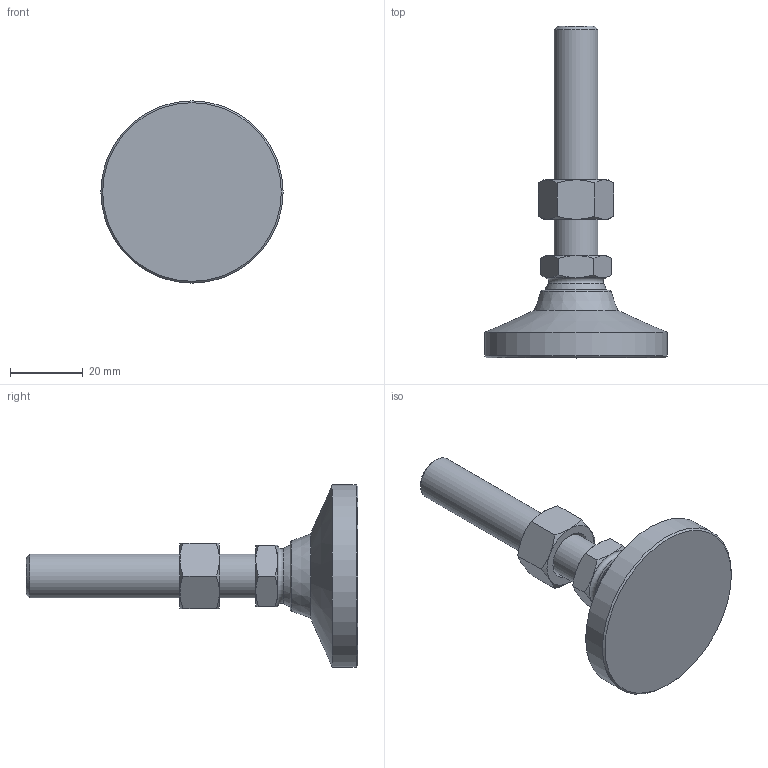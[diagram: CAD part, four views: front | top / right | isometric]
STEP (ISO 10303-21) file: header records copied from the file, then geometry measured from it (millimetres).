
FILE_DESCRIPTION( ( 'STEP AP214' ), ' ' );
FILE_NAME( 'O:/ganter_2015/teil_2/2_5/gn343_2/gn343_2_os/Levelling foot with threaded stud GN 343.2-50-M12-63-OS-(0).stp', '2015-10-26T09:07:57', ( '' ), ( '' ), ' ', 'PARTsolutions', ' ' );
FILE_SCHEMA( ( 'AUTOMOTIVE_DESIGN { 1 0 10303 214 1 1 1 1 }' ) );
Length unit declared in the file: millimetre
Products named in the file (4): Levelling foot with threaded stud GN 343.2-50-M12-63-OS-(0); _Levelling foot with threaded stud GN 343.2-50-M12-63-OS-(0)_foot; _Levelling foot with threaded stud GN 343.2-50-M12-63-OS-(0)_screw; _Stainless Steel-Levelling feet GN 343.2-50-M12-63-OS-(0)_nut
Assembly tree (3 placements, depth 2):
  Levelling foot with threaded stud GN 343.2-50-M12-63-OS-(0)
    _Levelling foot with threaded stud GN 343.2-50-M12-63-OS-(0)_foot
    _Levelling foot with threaded stud GN 343.2-50-M12-63-OS-(0)_screw
    _Stainless Steel-Levelling feet GN 343.2-50-M12-63-OS-(0)_nut
Bounding box: 50 x 91 x 50 mm (x, y, z)
Volume: 33591.6 mm3; surface area: 10891.2 mm2
Topology: 3 solids, 3 shells, 55 faces, 116 edges, 67 vertices
Faces by surface type: cone 30, plane 18, cylinder 3, torus 2, sphere 2
Full cylindrical faces by diameter (mm): 10.106 x1, 12 x1, 50 x1
Entity records: 2038 total; most frequent: CARTESIAN_POINT 495, DIRECTION 208, ORIENTED_EDGE 198, EDGE_CURVE 99, AXIS2_PLACEMENT_3D 98, EDGE_LOOP 70, VERTEX_POINT 65, FACE_OUTER_BOUND 60
